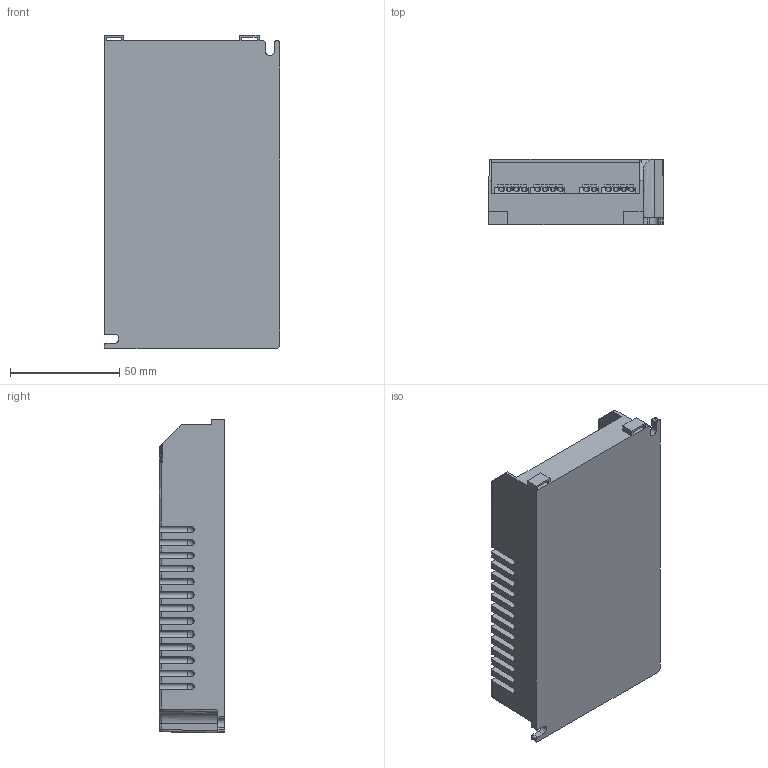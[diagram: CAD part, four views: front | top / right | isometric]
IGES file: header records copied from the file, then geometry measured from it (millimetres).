
Start section:  PTC IGES file: lc1x70-e-da.igs
Global section: file name: lc1x70-e-da.igs; native system: Pro/ENGINEER by Parametric Technology Corporation; preprocessor: 2003010; author: RUUSKA_TAPIO; organization: Unknown; date: 140305.101530; units: millimetre
Bounding box: 80.5 x 30 x 143.8 mm (x, y, z)
Volume: 296159.8 mm3; surface area: 49889.4 mm2
Topology: 1 solids, 1 shells, 415 faces, 1177 edges, 780 vertices
Faces by surface type: bspline 252, revolution 163
